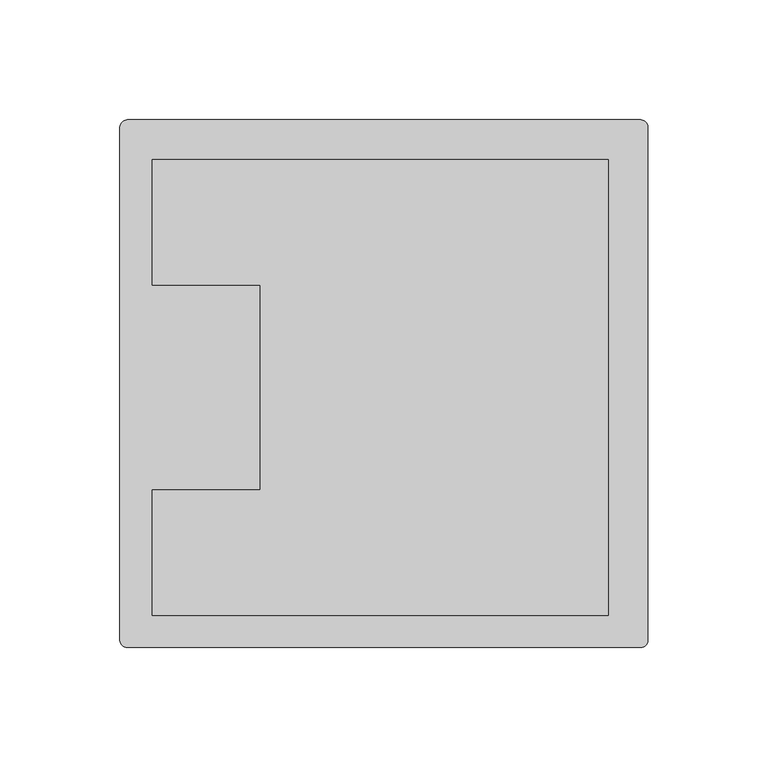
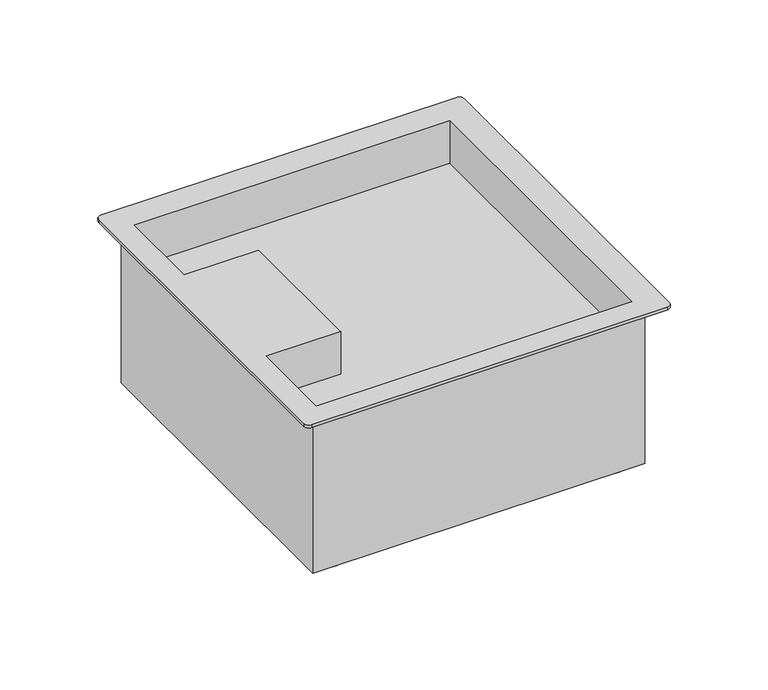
"""IFC4 building model written with IfcOpenShell, lengths in millimetres: proxy geometry, Electrical_Installation_Hager_VE-EE_Complete_underfloor_junction_box_package_stainless_steel : Compl pack junct. box incl ss cass. Q06."""

import ifcopenshell
import ifcopenshell.guid

model = None  # the IFC model being written
_history = None  # IfcOwnerHistory: only IFC2X3 demands one
_inside = {}  # id of a spatial element -> (the spatial element, [elements in it])
_under = {}  # id of a project, library or spatial element -> (it, [spatial elements below it])
_declared = {}  # id of a project -> (the project, [libraries it declares])
_typed = {}  # id of a type object -> (the type object, [elements of that type])
_made_of = {}  # id of a material, layer set ... -> (it, [elements and type objects made of it])


def new_model(schema):
    """Start an empty IFC model of exactly this schema.

    Asked for "IFC4X3", IfcOpenShell would pick the latest addendum, in which some entities
    have other attributes; the version numbers below select the first issue.
    IFC2X3 requires an IfcOwnerHistory on every rooted entity: one is made here for all.
    """
    global model, _history
    if schema == "IFC4X3":
        model = ifcopenshell.file(schema_version=(4, 3, 0, 0))
    else:
        model = ifcopenshell.file(schema=schema)
    _inside.clear()
    _under.clear()
    _declared.clear()
    _typed.clear()
    _made_of.clear()
    _history = None
    if model.schema == "IFC2X3":
        org = make("IfcOrganization", Name="unknown")
        user = make(
            "IfcPersonAndOrganization",
            ThePerson=make("IfcPerson", FamilyName="unknown"),
            TheOrganization=org,
        )
        app = make(
            "IfcApplication",
            ApplicationDeveloper=org,
            Version="unknown",
            ApplicationFullName="unknown",
            ApplicationIdentifier="unknown",
        )
        _history = make(
            "IfcOwnerHistory",
            OwningUser=user,
            OwningApplication=app,
            ChangeAction="ADDED",
            CreationDate=0,
        )
    return model


def make(cls, **values):
    """One entity of the class cls with the attributes given. An attribute that is None is left unset."""
    return model.create_entity(
        cls, **{name: value for name, value in values.items() if value is not None}
    )


def rooted(cls, **values):
    """An entity with a GlobalId (a new one), such as an element, a storey or a relation."""
    return make(cls, GlobalId=ifcopenshell.guid.new(), OwnerHistory=_history, **values)


def si_unit(unit_type, name, prefix=None):
    """IfcSIUnit, for example si_unit("LENGTHUNIT", "METRE", prefix="MILLI")."""
    return make("IfcSIUnit", UnitType=unit_type, Prefix=prefix, Name=name)


def assignment(units):
    """IfcUnitAssignment: the units of a project."""
    return None if units is None else make("IfcUnitAssignment", Units=units)


def point(xyz):
    """IfcCartesianPoint."""
    return None if xyz is None else make("IfcCartesianPoint", Coordinates=xyz)


def direction(xyz):
    """IfcDirection."""
    return None if xyz is None else make("IfcDirection", DirectionRatios=xyz)


def frame(location, z_axis=None, x_axis=None):
    """IfcAxis2Placement3D, a coordinate frame: its origin and axes. An axis left out is left unset."""
    return make(
        "IfcAxis2Placement3D",
        Location=point(location),
        Axis=direction(z_axis),
        RefDirection=direction(x_axis),
    )


def origin():
    """The frame at (0, 0, 0) with its axes left unset."""
    return frame((0.0, 0.0, 0.0))


def place(relative_to, where):
    """IfcLocalPlacement: puts the frame where relative to a parent placement (None: the world)."""
    return make(
        "IfcLocalPlacement", PlacementRelTo=relative_to, RelativePlacement=where
    )


def context(
    kind, dimensions, precision=None, world=None, true_north=None, identifier=None
):
    """IfcGeometricRepresentationContext, for example the 3D "Model" context."""
    return make(
        "IfcGeometricRepresentationContext",
        ContextIdentifier=identifier,
        ContextType=kind,
        CoordinateSpaceDimension=dimensions,
        Precision=precision,
        WorldCoordinateSystem=world,
        TrueNorth=true_north,
    )


def project(units=None, contexts=None):
    """IfcProject with its units and contexts."""
    return rooted(
        "IfcProject",
        Name="project",
        RepresentationContexts=contexts,
        UnitsInContext=assignment(units),
    )


def spatial(cls, under=None, at=None, **own):
    """A site, building, storey or space (cls), placed at a placement, below another one or the project."""
    s = rooted(cls, ObjectPlacement=at, **own)
    if under is not None:
        _under.setdefault(under.id(), (under, []))[1].append(s)
    return s


def circle_curve(where, radius):
    """IfcCircle in the frame where."""
    return make("IfcCircle", Position=where, Radius=radius)


def shape(context_of_items, identifier, shape_type, items):
    """IfcShapeRepresentation: the items that make up one representation, for example the "Body"."""
    return make(
        "IfcShapeRepresentation",
        ContextOfItems=context_of_items,
        RepresentationIdentifier=identifier,
        RepresentationType=shape_type,
        Items=items,
    )


def source(mapping_origin, context_of_items, identifier, shape_type, items):
    """IfcRepresentationMap: a shape defined once, which mapped items show again and again."""
    return make(
        "IfcRepresentationMap",
        MappingOrigin=mapping_origin,
        MappedRepresentation=shape(context_of_items, identifier, shape_type, items),
    )


def transform(
    local_origin,
    x_axis=None,
    y_axis=None,
    z_axis=None,
    scale=None,
    scale2=None,
    scale3=None,
    uniform=True,
):
    """IfcCartesianTransformationOperator3D, or its non-uniform kind. x_axis, y_axis, z_axis: its Axis1, 2, 3."""
    if uniform:
        return make(
            "IfcCartesianTransformationOperator3D",
            Axis1=direction(x_axis),
            Axis2=direction(y_axis),
            LocalOrigin=point(local_origin),
            Scale=scale,
            Axis3=direction(z_axis),
        )
    return make(
        "IfcCartesianTransformationOperator3DnonUniform",
        Axis1=direction(x_axis),
        Axis2=direction(y_axis),
        LocalOrigin=point(local_origin),
        Scale=scale,
        Axis3=direction(z_axis),
        Scale2=scale2,
        Scale3=scale3,
    )


def mapped(mapping_source, mapping_target):
    """IfcMappedItem: shows the shape of a source again, moved by a transform."""
    return make(
        "IfcMappedItem", MappingSource=mapping_source, MappingTarget=mapping_target
    )


def made_of(thing, what):
    """Note that an element or type object is made of a material, layer set ...; save() writes the relation."""
    if what is not None:
        _made_of.setdefault(what.id(), (what, []))[1].append(thing)
    return thing


def element(
    cls,
    number,
    at=None,
    inside=None,
    cuts=None,
    type_object=None,
    material=None,
    context=None,
    identifier="Body",
    shape_type=None,
    held_by="IfcProductDefinitionShape",
    body=None,
    shapes=None,
    **own,
):
    """One element of the class cls, such as IfcWall. Its Tag is "e" and its number.

    at: its placement. inside: the storey or other place that contains it. cuts: it is an
    opening in that element (IfcRelVoidsElement). A single representation is given by context,
    identifier, shape_type and body (its items); several are given by shapes. held_by: the class
    of the entity that holds the representations. save() writes the other relations.
    """
    e = rooted(cls, Tag="e%d" % number, ObjectPlacement=at, **own)
    if body is not None:
        shapes = [shape(context, identifier, shape_type, body)]
    if shapes is not None:
        e.Representation = make(held_by, Representations=shapes)
    if inside is not None:
        _inside.setdefault(inside.id(), (inside, []))[1].append(e)
    if cuts is not None:
        rooted(
            "IfcRelVoidsElement", RelatingBuildingElement=cuts, RelatedOpeningElement=e
        )
    if type_object is not None:
        _typed.setdefault(type_object.id(), (type_object, []))[1].append(e)
    return made_of(e, material)


def aggregate(whole, parts):
    """IfcRelAggregates: a whole, such as a stair, and the parts it consists of."""
    return rooted("IfcRelAggregates", RelatingObject=whole, RelatedObjects=parts)


def save(model, path):
    """Write the relations noted so far, then the file.

    IfcRelAggregates (storeys below a building ...), IfcRelContainedInSpatialStructure (elements
    in a storey), IfcRelDefinesByType, IfcRelAssociatesMaterial and IfcRelDeclares: one each for
    every whole, place, type object, material and project.
    """
    for whole, parts in _under.values():
        aggregate(whole, parts)
    for where, things in _inside.values():
        rooted(
            "IfcRelContainedInSpatialStructure",
            RelatedElements=things,
            RelatingStructure=where,
        )
    for kind, things in _typed.values():
        rooted("IfcRelDefinesByType", RelatedObjects=things, RelatingType=kind)
    for what, things in _made_of.values():
        rooted("IfcRelAssociatesMaterial", RelatedObjects=things, RelatingMaterial=what)
    for by, libraries in _declared.values():
        rooted("IfcRelDeclares", RelatingContext=by, RelatedDefinitions=libraries)
    model.write(path)


def plane_surface(at):
    """IfcPlane: the flat surface through the origin of the frame at, square to its z axis."""
    return make("IfcPlane", Position=at)


def cylinder_surface(at, radius):
    """IfcCylindricalSurface: all points at the distance radius from the z axis of the frame at."""
    return make("IfcCylindricalSurface", Position=at, Radius=radius)


def advanced_brep(points, edges, surfaces, faces):
    """IfcAdvancedBrep: a solid bounded by faces that lie on surfaces and meet in shared edges.

    An edge is (start, end): straight between two places in points (the first is 0);
    or (start, end, curve); or (start, end, curve, False) where it runs against its curve.
    A face is (place in surfaces, loops), or (place, loops, False) where it looks against
    its surface's normal. A loop lists edges by number (the first is 1), with a minus sign
    where the edge is run from its end to its start. The first loop is the outer one.
    """
    corners = [point(p) for p in points]
    vertices = [make("IfcVertexPoint", VertexGeometry=c) for c in corners]
    made = []
    for start, end, *more in edges:
        made.append(
            make(
                "IfcEdgeCurve",
                EdgeStart=vertices[start],
                EdgeEnd=vertices[end],
                EdgeGeometry=more[0] if more else make("IfcPolyline", Points=[corners[start], corners[end]]),
                SameSense=more[1] if len(more) > 1 else True,
            )
        )
    hull = []
    for where, loops, *sense in faces:
        bounds = []
        for j, loop in enumerate(loops):
            ring = [make("IfcOrientedEdge", EdgeElement=made[abs(k) - 1], Orientation=k > 0) for k in loop]
            bounds.append(
                make(
                    "IfcFaceOuterBound" if j == 0 else "IfcFaceBound",
                    Bound=make("IfcEdgeLoop", EdgeList=ring),
                    Orientation=True,
                )
            )
        hull.append(make("IfcAdvancedFace", Bounds=bounds, FaceSurface=surfaces[where], SameSense=sense[0] if sense else True))
    return make("IfcAdvancedBrep", Outer=make("IfcClosedShell", CfsFaces=hull))


def electrical_fixtures_18f01fef(model_context):
    return source(origin(), model_context, "Body", "AdvancedBrep", [
        advanced_brep(
        [(108.5, 111.5, 2.0), (-105.5, 111.5, 2.0), (-108.5, 108.5, 2.0), (-108.5, -105.5, 2.0), (-105.5, -108.5, 2.0), (108.5, -108.5, 2.0), (111.5, -105.5, 2.0), (111.5, 108.5, 2.0), (-50.1502423, 42.7328795, 2.0), (-95.0, 42.7328795, 2.0), (-95.0, 95.0, 2.0), (95.0, 95.0, 2.0), (95.0, -95.0, 2.0), (-95.0, -95.0, 2.0), (-95.0, -42.7328795, 2.0), (-50.1502423, -42.7328795, 2.0), (108.5, 111.5, 0.0), (111.5, 108.5, 0.0), (111.5, -105.5, 0.0), (108.5, -108.5, 0.0), (-105.5, -108.5, 0.0), (-108.5, -105.5, 0.0), (-108.5, 108.5, 0.0), (-105.5, 111.5, 0.0), (-100.0, -100.0, 0.0), (100.0, -100.0, 0.0), (100.0, 100.0, 0.0), (-100.0, 100.0, 0.0), (-50.1502423, 42.7328795, -25.0), (-95.0, 42.7328795, -25.0), (-95.0, -42.7328795, -25.0), (-50.1502423, -42.7328795, -25.0), (-95.0, 95.0, -25.0), (95.0, 95.0, -25.0), (95.0, -95.0, -25.0), (-95.0, -95.0, -25.0), (100.0, 100.0, -100.0), (100.0, -100.0, -100.0), (-100.0, -100.0, -100.0), (-100.0, 100.0, -100.0), (-93.5051574, 86.4657286, -100.0), (-73.5051574, 86.4657286, -100.0), (76.6301574, 86.4657286, -100.0), (96.6301574, 86.4657286, -100.0), (-93.5051574, -83.9657286, -100.0), (-73.5051574, -83.9657286, -100.0), (76.6301574, -83.9657286, -100.0), (96.6301574, -83.9657286, -100.0), (-93.5051574, 86.4657286, -105.0), (-73.5051574, 86.4657286, -105.0), (76.6301574, 86.4657286, -105.0), (96.6301574, 86.4657286, -105.0), (-93.5051574, -83.9657286, -105.0), (-73.5051574, -83.9657286, -105.0), (76.6301574, -83.9657286, -105.0), (96.6301574, -83.9657286, -105.0)],
        [
            (0, 1),
            (1, 2, circle_curve(frame((-105.5, 108.5, 2.0), z_axis=(0.0, 0.0, 1.0), x_axis=(1.0, 0.0, 0.0)), 3.0)),
            (2, 3),
            (3, 4, circle_curve(frame((-105.5, -105.5, 2.0), z_axis=(0.0, 0.0, 1.0), x_axis=(1.0, 0.0, 0.0)), 3.0)),
            (4, 5),
            (5, 6, circle_curve(frame((108.5, -105.5, 2.0), z_axis=(0.0, 0.0, 1.0), x_axis=(1.0, 0.0, 0.0)), 3.0)),
            (6, 7),
            (7, 0, circle_curve(frame((108.5, 108.5, 2.0), z_axis=(0.0, 0.0, 1.0), x_axis=(1.0, 0.0, 0.0)), 3.0)),
            (8, 9),
            (9, 10),
            (10, 11),
            (11, 12),
            (12, 13),
            (13, 14),
            (14, 15),
            (15, 8),
            (16, 17, circle_curve(frame((108.5, 108.5, 0.0), z_axis=(0.0, 0.0, -1.0), x_axis=(1.0, 0.0, 0.0)), 3.0)),
            (17, 18),
            (18, 19, circle_curve(frame((108.5, -105.5, 0.0), z_axis=(0.0, 0.0, -1.0), x_axis=(1.0, 0.0, 0.0)), 3.0)),
            (19, 20),
            (20, 21, circle_curve(frame((-105.5, -105.5, 0.0), z_axis=(0.0, 0.0, -1.0), x_axis=(1.0, 0.0, 0.0)), 3.0)),
            (21, 22),
            (22, 23, circle_curve(frame((-105.5, 108.5, 0.0), z_axis=(0.0, 0.0, -1.0), x_axis=(1.0, 0.0, 0.0)), 3.0)),
            (23, 16),
            (24, 25),
            (25, 26),
            (26, 27),
            (27, 24),
            (0, 16),
            (23, 1),
            (22, 2),
            (21, 3),
            (20, 4),
            (19, 5),
            (18, 6),
            (17, 7),
            (8, 28),
            (28, 29),
            (29, 9),
            (14, 30),
            (30, 31),
            (31, 15),
            (31, 28),
            (29, 32),
            (32, 10),
            (32, 33),
            (33, 11),
            (33, 34),
            (34, 12),
            (34, 35),
            (35, 13),
            (35, 30),
            (36, 37),
            (37, 38),
            (38, 39),
            (39, 36),
            (40, 41, circle_curve(frame((-83.5051574, 86.4657286, -100.0), z_axis=(0.0, 0.0, 1.0), x_axis=(1.0, 0.0, 0.0)), 10.0)),
            (41, 40, circle_curve(frame((-83.5051574, 86.4657286, -100.0), z_axis=(0.0, 0.0, 1.0), x_axis=(1.0, 0.0, 0.0)), 10.0)),
            (42, 43, circle_curve(frame((86.6301574, 86.4657286, -100.0), z_axis=(0.0, 0.0, 1.0), x_axis=(1.0, 0.0, 0.0)), 10.0)),
            (43, 42, circle_curve(frame((86.6301574, 86.4657286, -100.0), z_axis=(0.0, 0.0, 1.0), x_axis=(1.0, 0.0, 0.0)), 10.0)),
            (44, 45, circle_curve(frame((-83.5051574, -83.9657286, -100.0), z_axis=(0.0, 0.0, 1.0), x_axis=(1.0, 0.0, 0.0)), 10.0)),
            (45, 44, circle_curve(frame((-83.5051574, -83.9657286, -100.0), z_axis=(0.0, 0.0, 1.0), x_axis=(1.0, 0.0, 0.0)), 10.0)),
            (46, 47, circle_curve(frame((86.6301574, -83.9657286, -100.0), z_axis=(0.0, 0.0, 1.0), x_axis=(1.0, 0.0, 0.0)), 10.0)),
            (47, 46, circle_curve(frame((86.6301574, -83.9657286, -100.0), z_axis=(0.0, 0.0, 1.0), x_axis=(1.0, 0.0, 0.0)), 10.0)),
            (39, 27),
            (26, 36),
            (38, 24),
            (37, 25),
            (48, 49, circle_curve(frame((-83.5051574, 86.4657286, -105.0), z_axis=(0.0, 0.0, -1.0), x_axis=(1.0, 0.0, 0.0)), 10.0)),
            (49, 48, circle_curve(frame((-83.5051574, 86.4657286, -105.0), z_axis=(0.0, 0.0, -1.0), x_axis=(1.0, 0.0, 0.0)), 10.0)),
            (50, 51, circle_curve(frame((86.6301574, 86.4657286, -105.0), z_axis=(0.0, 0.0, -1.0), x_axis=(1.0, 0.0, 0.0)), 10.0)),
            (51, 50, circle_curve(frame((86.6301574, 86.4657286, -105.0), z_axis=(0.0, 0.0, -1.0), x_axis=(1.0, 0.0, 0.0)), 10.0)),
            (52, 53, circle_curve(frame((-83.5051574, -83.9657286, -105.0), z_axis=(0.0, 0.0, -1.0), x_axis=(1.0, 0.0, 0.0)), 10.0)),
            (53, 52, circle_curve(frame((-83.5051574, -83.9657286, -105.0), z_axis=(0.0, 0.0, -1.0), x_axis=(1.0, 0.0, 0.0)), 10.0)),
            (54, 55, circle_curve(frame((86.6301574, -83.9657286, -105.0), z_axis=(0.0, 0.0, -1.0), x_axis=(1.0, 0.0, 0.0)), 10.0)),
            (55, 54, circle_curve(frame((86.6301574, -83.9657286, -105.0), z_axis=(0.0, 0.0, -1.0), x_axis=(1.0, 0.0, 0.0)), 10.0)),
            (49, 41),
            (40, 48),
            (51, 43),
            (42, 50),
            (53, 45),
            (44, 52),
            (55, 47),
            (46, 54),
        ],
        [
            plane_surface(frame((-105.5, 111.5, 2.0), z_axis=(0.0, 0.0, 1.0), x_axis=(-1.0, 0.0, 0.0))),
            plane_surface(frame((-105.5, 111.5, 0.0), z_axis=(0.0, 0.0, -1.0), x_axis=(1.0, 0.0, 0.0))),
            plane_surface(frame((108.5, 111.5, 2.0), z_axis=(0.0, 1.0, 0.0), x_axis=(0.0, 0.0, -1.0))),
            cylinder_surface(frame((-105.5, 108.5, 0.0), z_axis=(0.0, 0.0, 1.0), x_axis=(1.0, 0.0, 0.0)), 3.0),
            plane_surface(frame((-108.5, 108.5, 2.0), z_axis=(-1.0, 0.0, 0.0), x_axis=(0.0, 0.0, -1.0))),
            cylinder_surface(frame((-105.5, -105.5, 0.0), z_axis=(0.0, 0.0, 1.0), x_axis=(1.0, 0.0, 0.0)), 3.0),
            plane_surface(frame((-105.5, -108.5, 2.0), z_axis=(0.0, -1.0, 0.0), x_axis=(0.0, 0.0, -1.0))),
            cylinder_surface(frame((108.5, -105.5, 0.0), z_axis=(0.0, 0.0, 1.0), x_axis=(1.0, 0.0, 0.0)), 3.0),
            plane_surface(frame((111.5, -105.5, 2.0), z_axis=(1.0, 0.0, 0.0), x_axis=(0.0, 0.0, -1.0))),
            cylinder_surface(frame((108.5, 108.5, 0.0), z_axis=(0.0, 0.0, 1.0), x_axis=(1.0, 0.0, 0.0)), 3.0),
            plane_surface(frame((-50.1502423, 42.7328795, 2.0), z_axis=(0.0, 1.0, 0.0), x_axis=(0.0, 0.0, -1.0))),
            plane_surface(frame((-95.0, -42.7328795, 2.0), z_axis=(0.0, -1.0, 0.0), x_axis=(0.0, 0.0, -1.0))),
            plane_surface(frame((-50.1502423, -42.7328795, 2.0), z_axis=(1.0, 0.0, 0.0), x_axis=(0.0, 0.0, -1.0))),
            plane_surface(frame((-95.0, 42.7328795, 2.0), z_axis=(1.0, 0.0, 0.0), x_axis=(0.0, 0.0, -1.0))),
            plane_surface(frame((-95.0, 95.0, 2.0), z_axis=(0.0, -1.0, 0.0), x_axis=(0.0, 0.0, -1.0))),
            plane_surface(frame((95.0, 95.0, 2.0), z_axis=(-1.0, 0.0, 0.0), x_axis=(0.0, 0.0, -1.0))),
            plane_surface(frame((95.0, -95.0, 2.0), z_axis=(0.0, 1.0, 0.0), x_axis=(0.0, 0.0, -1.0))),
            plane_surface(frame((-95.0, -95.0, 2.0), z_axis=(1.0, 0.0, 0.0), x_axis=(0.0, 0.0, -1.0))),
            plane_surface(frame((-545.5769887, 100.0, -25.0), z_axis=(0.0, 0.0, 1.0), x_axis=(-1.0, 0.0, 0.0))),
            plane_surface(frame((-545.5769887, 100.0, -100.0), z_axis=(0.0, 0.0, -1.0), x_axis=(1.0, 0.0, 0.0))),
            plane_surface(frame((100.0, 100.0, -25.0), z_axis=(0.0, 1.0, 0.0), x_axis=(0.0, 0.0, -1.0))),
            plane_surface(frame((-100.0, 100.0, -25.0), z_axis=(-1.0, 0.0, 0.0), x_axis=(0.0, 0.0, -1.0))),
            plane_surface(frame((-100.0, -100.0, -25.0), z_axis=(0.0, -1.0, 0.0), x_axis=(0.0, 0.0, -1.0))),
            plane_surface(frame((100.0, -100.0, -25.0), z_axis=(1.0, 0.0, 0.0), x_axis=(0.0, 0.0, -1.0))),
            plane_surface(frame((-73.5051574, 86.4657286, -105.0), z_axis=(0.0, 0.0, -1.0), x_axis=(0.0, -1.0, 0.0))),
            cylinder_surface(frame((-83.5051574, 86.4657286, -105.0), z_axis=(0.0, 0.0, 1.0), x_axis=(1.0, 0.0, 0.0)), 10.0),
            cylinder_surface(frame((86.6301574, 86.4657286, 0.0), z_axis=(0.0, 0.0, 1.0), x_axis=(1.0, 0.0, 0.0)), 10.0),
            cylinder_surface(frame((-83.5051574, -83.9657286, 0.0), z_axis=(0.0, 0.0, 1.0), x_axis=(1.0, 0.0, 0.0)), 10.0),
            cylinder_surface(frame((86.6301574, -83.9657286, 0.0), z_axis=(0.0, 0.0, 1.0), x_axis=(1.0, 0.0, 0.0)), 10.0),
        ],
        [
            (0, [[1, 2, 3, 4, 5, 6, 7, 8], [9, 10, 11, 12, 13, 14, 15, 16]]),
            (1, [[17, 18, 19, 20, 21, 22, 23, 24], [25, 26, 27, 28]]),
            (2, [[-1, 29, -24, 30]]),
            (3, [[-2, -30, -23, 31]]),
            (4, [[-3, -31, -22, 32]]),
            (5, [[-4, -32, -21, 33]]),
            (6, [[-5, -33, -20, 34]]),
            (7, [[-6, -34, -19, 35]]),
            (8, [[-7, -35, -18, 36]]),
            (9, [[-8, -36, -17, -29]]),
            (10, [[-9, 37, 38, 39]]),
            (11, [[-15, 40, 41, 42]]),
            (12, [[-16, -42, 43, -37]]),
            (13, [[-10, -39, 44, 45]]),
            (14, [[-11, -45, 46, 47]]),
            (15, [[-12, -47, 48, 49]]),
            (16, [[-13, -49, 50, 51]]),
            (17, [[-14, -51, 52, -40]]),
            (18, [[-38, -43, -41, -52, -50, -48, -46, -44]]),
            (19, [[53, 54, 55, 56], [57, 58], [59, 60], [61, 62], [63, 64]]),
            (20, [[-56, 65, -27, 66]]),
            (21, [[-65, -55, 67, -28]]),
            (22, [[-67, -54, 68, -25]]),
            (23, [[-68, -53, -66, -26]]),
            (24, [[69, 70]]),
            (24, [[71, 72]]),
            (24, [[73, 74]]),
            (24, [[75, 76]]),
            (25, [[-70, 77, -57, 78]]),
            (25, [[-69, -78, -58, -77]]),
            (26, [[-72, 79, -59, 80]]),
            (26, [[-71, -80, -60, -79]]),
            (27, [[-74, 81, -61, 82]]),
            (27, [[-73, -82, -62, -81]]),
            (28, [[-76, 83, -63, 84]]),
            (28, [[-75, -84, -64, -83]]),
        ],
    ),
    ])


if __name__ == "__main__":
    model = new_model("IFC4")
    model_context = context("Model", 3, world=origin())
    ifc_project = project(units=[si_unit("LENGTHUNIT", "METRE", prefix="MILLI")], contexts=[model_context])
    site = spatial("IfcSite", under=ifc_project)
    building = spatial("IfcBuilding", under=site)
    placement = place(None, origin())
    electrical_fixtures_shape = electrical_fixtures_18f01fef(model_context)
    element("IfcBuildingElementProxy", 1, Name="Electrical_Installation_Hager_VE-EE_Complete_underfloor_junction_box_package_stainless_steel : Compl pack junct. box incl ss cass. Q06", ObjectType="Electrical_Installation_Hager_VE-EE_Complete_underfloor_junction_box_package_stainless_steel : Compl pack junct. box incl ss cass. Q06", at=placement, inside=building, context=model_context, shape_type="MappedRepresentation", body=[
        mapped(electrical_fixtures_shape, transform((0.0, 0.0, 0.0), x_axis=(1.0, 0.0, 0.0), y_axis=(0.0, 1.0, 0.0), z_axis=(0.0, 0.0, 1.0))),
    ])
    save(model, "model.ifc")
